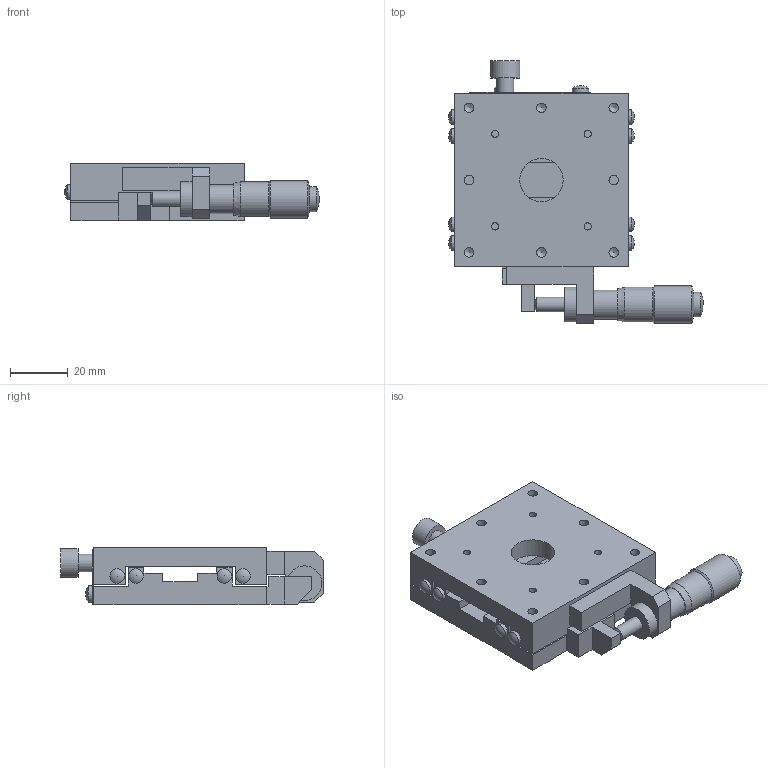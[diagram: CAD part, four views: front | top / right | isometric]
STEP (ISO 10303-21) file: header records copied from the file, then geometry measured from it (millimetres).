
FILE_DESCRIPTION( ( 'STEP AP214' ), '1' );
FILE_NAME( 'C:/Project/3D_B11-60CZ-配布-070508.stp', '2007-05-08T10:42:15', ( ' ' ), ( ' ' ), 'XStep 1.0', ' ', ' ' );
FILE_SCHEMA( ( 'automotive_design' ) );
Length unit declared in the file: millimetre
Products named in the file (3): 1; 2; 3
Bounding box: 88.1 x 90.8 x 20 mm (x, y, z)
Volume: 69900.8 mm3; surface area: 29617.7 mm2
Topology: 3 solids, 3 shells, 164 faces, 442 edges, 295 vertices
Faces by surface type: plane 83, cylinder 60, sphere 12, cone 9
Full cylindrical faces by diameter (mm): 2.5 x8, 3 x1, 3.3 x16, 4.5 x4, 5 x10, 5.6 x2, 6 x1, 8 x4, 8.6 x1, 10 x2, 10.5 x1, 12 x2, 13 x1, 15 x1
Entity records: 5698 total; most frequent: DIRECTION 754, CARTESIAN_POINT 723, ORIENTED_EDGE 622, EDGE_CURVE 311, AXIS2_PLACEMENT_3D 276, EDGE_LOOP 276, VERTEX_POINT 245, FACE_OUTER_BOUND 218
